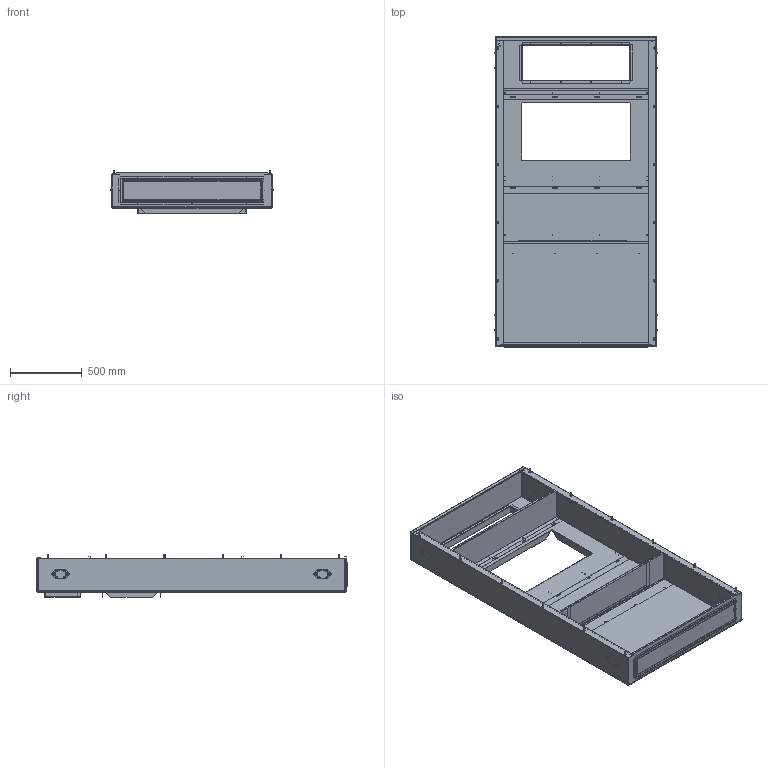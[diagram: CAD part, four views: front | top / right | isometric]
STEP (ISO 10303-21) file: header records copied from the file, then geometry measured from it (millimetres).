
FILE_DESCRIPTION (( 'STEP AP214' ), '1' );
FILE_NAME ('TCURBF4860.STEP', '2017-06-14T19:17:00', ( 'BMC' ), ( 'Bard Manufacturing Co., Inc.' ), 'SwSTEP 2.0', 'SolidWorks 2017', '' );
FILE_SCHEMA (( 'AUTOMOTIVE_DESIGN' ));
Length unit declared in the file: inch
Products named in the file (1): TCURBF4860
Bounding box: 1131.93 x 2166.4 x 299.05 mm (x, y, z)
Volume: 8684701.6 mm3; surface area: 12859826.1 mm2
Topology: 60 solids, 60 shells, 3476 faces, 8446 edges, 4860 vertices
Faces by surface type: plane 1106, cylinder 958, cone 688, bspline 528, torus 180, sphere 16
Entity records: 181639 total; most frequent: CARTESIAN_POINT 57423, ORIENTED_EDGE 16316, DIRECTION 16052, EDGE_CURVE 8158, AXIS2_PLACEMENT_3D 6077, VERTEX_POINT 4860, EDGE_LOOP 4126, LINE 3898
